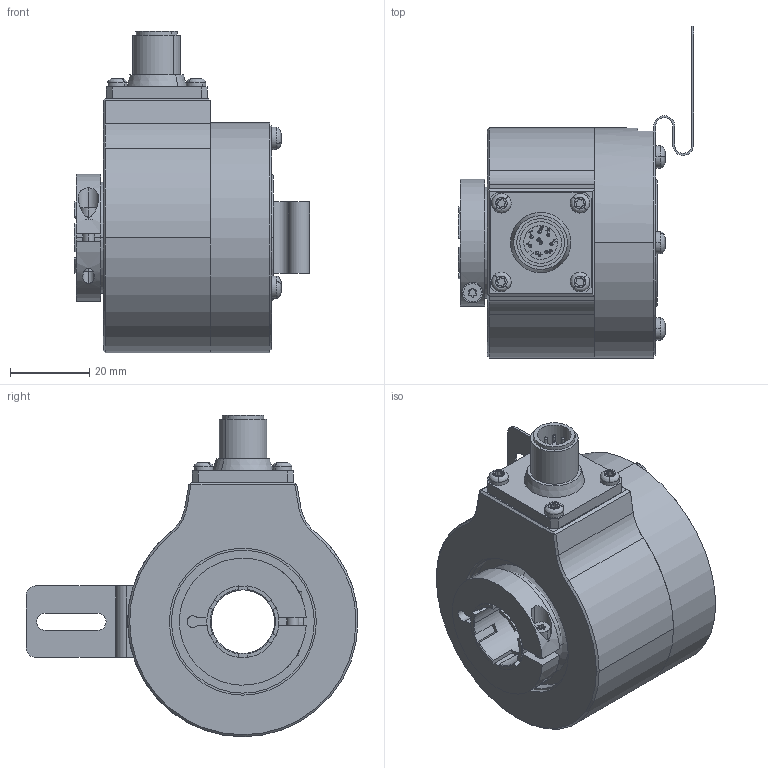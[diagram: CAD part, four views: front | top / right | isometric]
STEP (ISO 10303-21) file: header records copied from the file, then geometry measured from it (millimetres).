
FILE_DESCRIPTION (( 'STEP AP203' ), '1' );
FILE_NAME ('K58I.OXX.XXXXX.XC15516.XXRC2.step', '2025-12-03T07:00:32', ( '' ), ( '' ), 'SwSTEP 2.0', 'SolidWorks 2021', '' );
FILE_SCHEMA (( 'CONFIG_CONTROL_DESIGN' ));
Length unit declared in the file: millimetre
Products named in the file (1): K58I.OXX.XXXXX.XC15516.XXRC2
Bounding box: 59.2 x 83.61 x 81 mm (x, y, z)
Volume: 116871.8 mm3; surface area: 41267.5 mm2
Topology: 7 solids, 7 shells, 593 faces, 1547 edges, 987 vertices
Faces by surface type: cylinder 265, plane 174, bspline 76, cone 60, sphere 16, torus 2
Entity records: 23140 total; most frequent: CARTESIAN_POINT 8913, ORIENTED_EDGE 3006, DIRECTION 2861, EDGE_CURVE 1503, AXIS2_PLACEMENT_3D 1077, VERTEX_POINT 971, LINE 707, VECTOR 707
